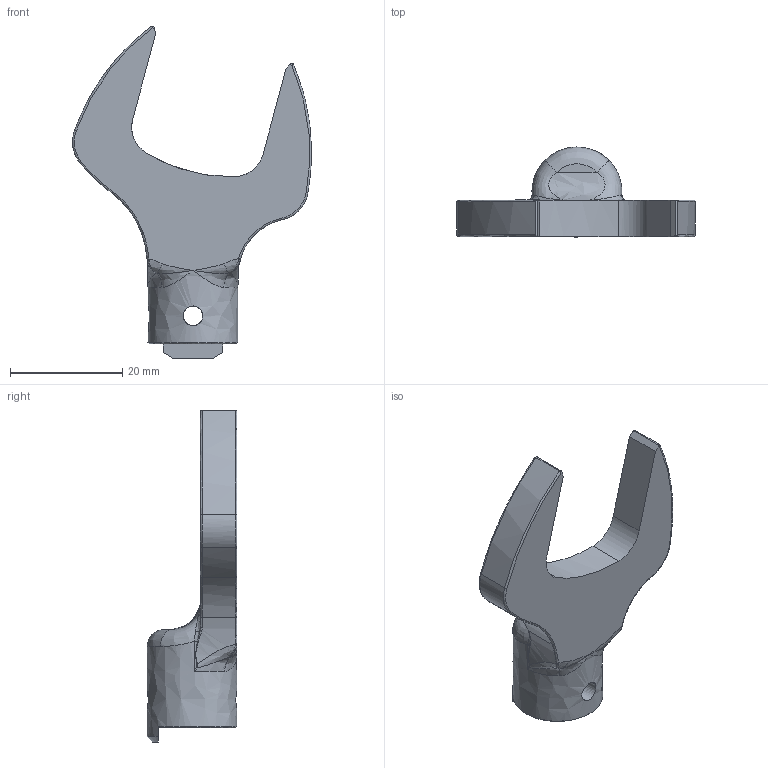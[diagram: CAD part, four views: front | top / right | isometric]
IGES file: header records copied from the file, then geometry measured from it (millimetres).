
Global section: file name: SH10DX24; native system: Autodesk Inventor 2016; preprocessor: unknown; author: Q600; date: 20151029.185212; units: millimetre
Bounding box: 42.48 x 16 x 59.04 mm (x, y, z)
Volume: 7308 mm3; surface area: 4267.1 mm2
Topology: 1 solids, 1 shells, 90 faces, 235 edges, 136 vertices
Faces by surface type: bspline 90
